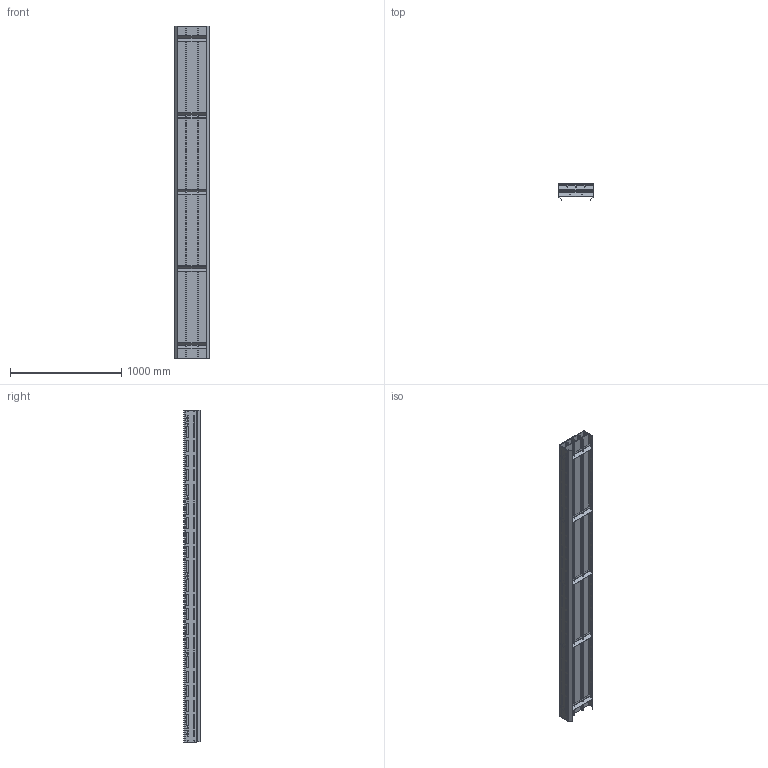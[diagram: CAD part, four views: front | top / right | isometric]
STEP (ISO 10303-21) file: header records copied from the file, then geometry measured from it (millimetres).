
FILE_DESCRIPTION (( 'STEP AP214' ), '1' );
FILE_NAME ('03.102S320.N FS-320-MTS2-100.INOX straight section L=2990.STEP', '2025-02-11T10:17:39', ( '' ), ( '' ), 'SwSTEP 2.0', 'SolidWorks 2024', '' );
FILE_SCHEMA (( 'AUTOMOTIVE_DESIGN' ));
Length unit declared in the file: millimetre
Products named in the file (1): 03.102S320.N FS-320-MTS2-100.INOX straight section L=2990
Bounding box: 320.5 x 145.63 x 2990 mm (x, y, z)
Volume: 21556691.5 mm3; surface area: 8080677.2 mm2
Topology: 21 solids, 21 shells, 1566 faces, 4572 edges, 3048 vertices
Faces by surface type: cylinder 930, plane 636
Entity records: 54131 total; most frequent: DIRECTION 9558, CARTESIAN_POINT 9211, ORIENTED_EDGE 9144, EDGE_CURVE 4572, AXIS2_PLACEMENT_3D 3427, VERTEX_POINT 3048, VECTOR 2704, LINE 2704
